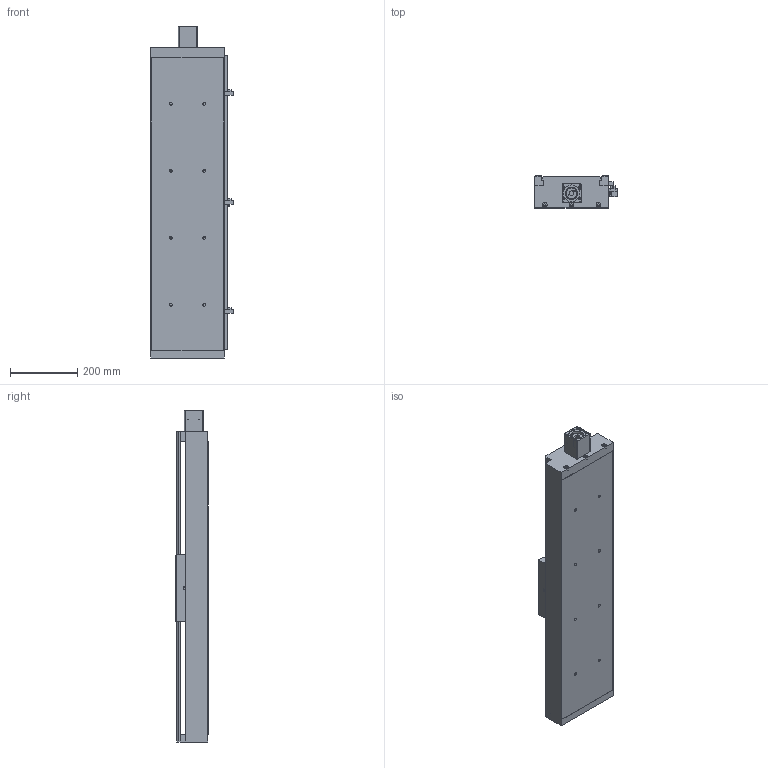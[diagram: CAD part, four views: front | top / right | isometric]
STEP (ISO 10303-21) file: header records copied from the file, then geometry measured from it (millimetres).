
FILE_DESCRIPTION((''),'2;1');
FILE_NAME('E:\libraries\UIA actuator library 2016\standard actuator\UIA220R20NDC\UIA220R20NDC ball screw 25\UIA220R20NDC-_ _ _-R25_ _ stp file, 01May16\UIA220R20NDC-650-R25_ _-M60-P13-C10-S.stp','2016-04-29T17:30:09',('h029'),(''),'Autodesk Inventor 11','Autodesk Inventor 11','');
FILE_SCHEMA(('AUTOMOTIVE_DESIGN { 1 0 10303 214 1 1 1 1 }'));
Length unit declared in the file: millimetre
Products named in the file (10): UIA220R20NDC-650-R25_ _; UIA220R20NDC-body; 41-100 0010 CARRIAGE; sensor rail; Sensor Switch; motor mount M60; SOH-32C; SOH-32C-3; SOH-32C-1; SOH-32C-2
Assembly tree (9 placements, depth 3):
  UIA220R20NDC-650-R25_ _
    UIA220R20NDC-body
    41-100 0010 CARRIAGE
    sensor rail
    Sensor Switch
    motor mount M60
    SOH-32C
      SOH-32C-3
      SOH-32C-1
      SOH-32C-2
Bounding box: 246.5 x 96 x 991 mm (x, y, z)
Volume: 6011440.9 mm3; surface area: 1388726.8 mm2
Topology: 8 solids, 8 shells, 511 faces, 1365 edges, 897 vertices
Faces by surface type: plane 342, bspline 121, cylinder 46, cone 2
Full cylindrical faces by diameter (mm): 3.242 x2, 4.5 x2, 7 x4, 7.5 x2, 13.8 x3, 14 x6, 17 x1, 32 x3, 37 x1, 46.9 x1, 47.1 x1
Entity records: 16706 total; most frequent: CARTESIAN_POINT 4729, ORIENTED_EDGE 2328, DIRECTION 2277, EDGE_CURVE 1164, VECTOR 849, LINE 849, VERTEX_POINT 823, EDGE_LOOP 741
